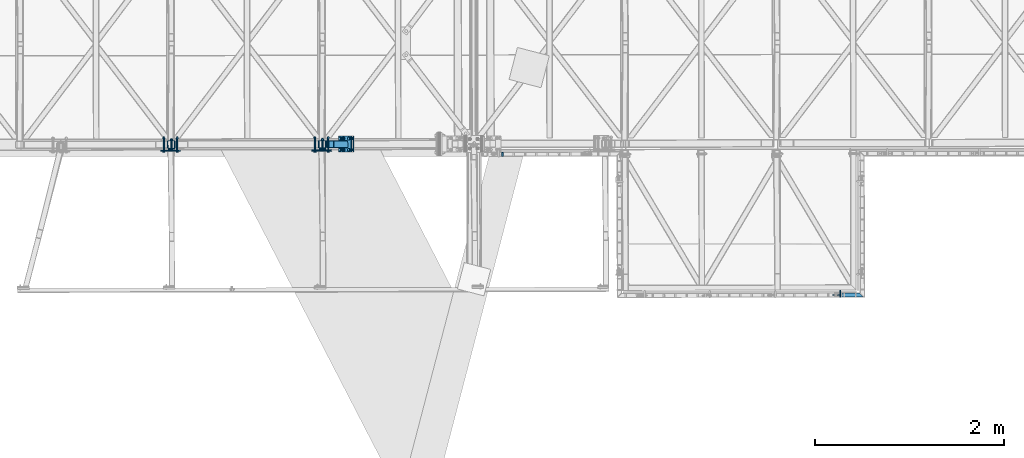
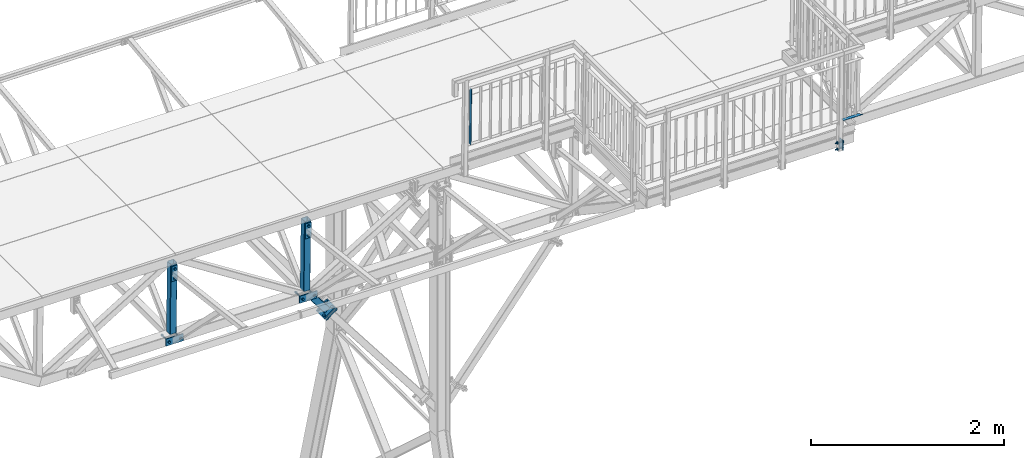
# One storey, part 101 of 169: 12 discrete accessories, 6 mechanical fasteners, 6 elements without a shape of their own.
"""IFC2X3 building model written with IfcOpenShell, lengths in millimetres."""

from ifc_helpers import new_model, si_unit, frame, frame_2d, origin_with_axes, origin_2d_with_axis, place, context, subcontext, project, spatial, polyline, circle_curve, parameter, trimmed, segment, composite_curve, rectangle, hollow_rectangle, circle, outline, extrude, boolean, clip, halfspace, source, transform, mapped, material, type_object, element, aggregate, save


model = new_model("IFC2X3")

# Units and contexts
model_context = context("Model", 3, precision=1e-05, world=origin_with_axes())
body_context = subcontext(model_context, "Body", "Model", "MODEL_VIEW")
ifc_project = project(units=[si_unit("LENGTHUNIT", "METRE", prefix="MILLI"), si_unit("AREAUNIT", "SQUARE_METRE"), si_unit("VOLUMEUNIT", "CUBIC_METRE"), si_unit("MASSUNIT", "GRAM", prefix="KILO"), si_unit("TIMEUNIT", "SECOND"), si_unit("PLANEANGLEUNIT", "RADIAN"), si_unit("SOLIDANGLEUNIT", "STERADIAN"), si_unit("THERMODYNAMICTEMPERATUREUNIT", "DEGREE_CELSIUS"), si_unit("LUMINOUSINTENSITYUNIT", "LUMEN")], contexts=[model_context])

# Site, building, storey
site_placement = place(None, origin_with_axes())
site = spatial("IfcSite", under=ifc_project, at=site_placement, Name="Undefined", CompositionType="ELEMENT")
building_placement = place(site_placement, origin_with_axes())
building = spatial("IfcBuilding", under=site, at=building_placement, Name="Undefined", CompositionType="ELEMENT")
storey_placement = place(building_placement, origin_with_axes())
storey = spatial("IfcBuildingStorey", under=building, at=storey_placement, Name="Undefined", CompositionType="ELEMENT", Elevation=0.0)

# Assembly, discrete accessories
assembly_1_placement = place(storey_placement, origin_with_axes())
assembly_1 = element("IfcElementAssembly", 1, at=assembly_1_placement, inside=storey, Name="Steel Assembly", AssemblyPlace="NOTDEFINED", PredefinedType="RIGID_FRAME")
ifc_material_1 = material(Name="STEEL/S355")
discrete_accessory_type_1 = type_object("IfcDiscreteAccessoryType", Name="BLACHA")
discrete_accessory_1_placement = place(assembly_1_placement, frame((4613.88200219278, 46.6181910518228, 12895.5316098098), z_axis=(0.00186484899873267, -0.999998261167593, 4.28757666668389e-08), x_axis=(-0.999917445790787, -0.00186469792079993, 0.0127131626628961)))
discrete_accessory_1 = element("IfcDiscreteAccessory", 2, at=discrete_accessory_1_placement, type_object=discrete_accessory_type_1, material=ifc_material_1, Name="BLACHA", ObjectType="BL12*90", context=body_context, shape_type="SweptSolid", body=[
    extrude(outline(polyline([(209.999999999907, 45.0000000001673), (209.999999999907, -44.999999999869), (0.0, -45.0000000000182), (0.0, 45.0000000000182), (209.999999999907, 45.0000000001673)])), frame((-1.81898942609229e-12, -1.81898940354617e-12, -5.99999999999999), z_axis=(0.0, 0.0, 1.0), x_axis=(1.0, 0.0, 0.0)), (0.0, 0.0, 1.0), 12.0),
])
discrete_accessory_2_placement = place(assembly_1_placement, frame((4554.35581764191, 66.5072548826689, 13722.6914092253), z_axis=(0.00186484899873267, -0.999998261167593, 4.28757666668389e-08), x_axis=(-0.999917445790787, -0.00186469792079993, 0.0127131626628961)))
discrete_accessory_2 = element("IfcDiscreteAccessory", 3, at=discrete_accessory_2_placement, type_object=discrete_accessory_type_1, material=ifc_material_1, Name="BLACHA", ObjectType="BL12*190", context=body_context, shape_type="SweptSolid", body=[
    extrude(outline(polyline([(69.9999999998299, 95.0000000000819), (69.9999999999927, -94.99999999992), (8.18545231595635e-11, -95.0), (-8.18545231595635e-11, 95.0000000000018), (69.9999999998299, 95.0000000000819)])), frame((-1.81898942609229e-12, -1.81898940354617e-12, -5.99999999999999), z_axis=(0.0, 0.0, 1.0), x_axis=(1.0, 0.0, 0.0)), (0.0, 0.0, 1.0), 12.0),
])

# Assembly, discrete accessory
assembly_2_placement = place(storey_placement, origin_with_axes())
assembly_2 = element("IfcElementAssembly", 4, at=assembly_2_placement, inside=storey, Name="Steel Assembly", AssemblyPlace="NOTDEFINED", PredefinedType="RIGID_FRAME")
ifc_material_2 = material(Name="STEEL/S235")
discrete_accessory_3_placement = place(assembly_2_placement, frame((10010.4174673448, -1436.32062110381, 13827.0351990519), z_axis=(-0.999917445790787, -0.00186469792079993, 0.0127131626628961), x_axis=(0.00186484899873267, -0.999998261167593, 4.28757666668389e-08)))
discrete_accessory_3 = element("IfcDiscreteAccessory", 5, at=discrete_accessory_3_placement, type_object=discrete_accessory_type_1, material=ifc_material_2, Name="BLACHA", ObjectType="BL10*120", context=body_context, shape_type="SweptSolid", body=[
    extrude(outline(polyline([(75.0000002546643, -60.0000000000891), (-5.35749222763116e-11, -59.9999999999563), (5.3567816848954e-11, 59.9999999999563), (75.0000002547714, 59.9999999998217), (75.0000002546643, -60.0000000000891)])), frame((-1.81898926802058e-12, -1.18000176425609e-16, -5.00000000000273), z_axis=(0.0, 0.0, 1.0), x_axis=(1.0, 0.0, 0.0)), (0.0, 0.0, 1.0), 10.0),
])
aggregate(assembly_2, [discrete_accessory_3])

# Assembly, discrete accessories
assembly_3_placement = place(storey_placement, origin_with_axes())
assembly_3 = element("IfcElementAssembly", 6, at=assembly_3_placement, inside=storey, Name="Steel Assembly", AssemblyPlace="NOTDEFINED", PredefinedType="RIGID_FRAME")
discrete_accessory_4_placement = place(assembly_3_placement, frame((3012.49886982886, 43.6318485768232, 12915.8919302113), z_axis=(0.00186484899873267, -0.999998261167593, 4.28757666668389e-08), x_axis=(-0.999917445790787, -0.00186469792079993, 0.0127131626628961)))
discrete_accessory_4 = element("IfcDiscreteAccessory", 7, at=discrete_accessory_4_placement, type_object=discrete_accessory_type_1, material=ifc_material_1, Name="BLACHA", ObjectType="BL12*90", context=body_context, shape_type="SweptSolid", body=[
    extrude(outline(polyline([(209.999999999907, 45.0000000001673), (209.999999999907, -44.999999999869), (0.0, -45.0000000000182), (0.0, 45.0000000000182), (209.999999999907, 45.0000000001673)])), frame((-1.81898942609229e-12, -1.81898940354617e-12, -5.99999999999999), z_axis=(0.0, 0.0, 1.0), x_axis=(1.0, 0.0, 0.0)), (0.0, 0.0, 1.0), 12.0),
])
discrete_accessory_5_placement = place(assembly_3_placement, frame((2952.97268208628, 63.5209118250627, 13743.0517292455), z_axis=(0.00186484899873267, -0.999998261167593, 4.28757666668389e-08), x_axis=(-0.999917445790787, -0.00186469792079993, 0.0127131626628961)))
discrete_accessory_5 = element("IfcDiscreteAccessory", 8, at=discrete_accessory_5_placement, type_object=discrete_accessory_type_1, material=ifc_material_1, Name="BLACHA", ObjectType="BL12*190", context=body_context, shape_type="SweptSolid", body=[
    extrude(outline(polyline([(69.9999999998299, 95.0000000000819), (69.9999999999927, -94.99999999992), (8.18545231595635e-11, -95.0), (-8.18545231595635e-11, 95.0000000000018), (69.9999999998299, 95.0000000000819)])), frame((-1.81898942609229e-12, -1.81898940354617e-12, -5.99999999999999), z_axis=(0.0, 0.0, 1.0), x_axis=(1.0, 0.0, 0.0)), (0.0, 0.0, 1.0), 12.0),
])

# Assembly, discrete accessory
assembly_4_placement = place(storey_placement, origin_with_axes())
assembly_4 = element("IfcElementAssembly", 9, at=assembly_4_placement, inside=storey, Name="Steel Assembly", AssemblyPlace="NOTDEFINED", PredefinedType="RIGID_FRAME")
discrete_accessory_6_placement = place(assembly_4_placement, frame((4846.72529695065, 114.052583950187, 12641.7648411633), z_axis=(-0.0018648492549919, 0.999998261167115, -4.2996762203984e-08), x_axis=(-0.792353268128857, -0.00147761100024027, -0.610060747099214)))
discrete_accessory_6 = element("IfcDiscreteAccessory", 10, at=discrete_accessory_6_placement, type_object=discrete_accessory_type_1, material=ifc_material_1, Name="BLACHA", ObjectType="BL16*170", context=body_context, shape_type="SweptSolid", body=[
    extrude(rectangle(XDim=16.0, YDim=170.0, at=origin_2d_with_axis()), frame((169.999999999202, 0.0, -3.62691994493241e-12), z_axis=(-1.0, -3.46944695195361e-18, -1.38777878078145e-17), x_axis=(1.73472347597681e-18, -1.0, 0.0)), (0.0, 0.0, 1.0), 170.0),
])

# Assembly, discrete accessories
assembly_5_placement = place(storey_placement, origin_with_axes())
assembly_5 = element("IfcElementAssembly", 11, at=assembly_5_placement, inside=storey, Name="Steel Assembly", AssemblyPlace="NOTDEFINED", PredefinedType="RIGID_FRAME")
discrete_accessory_7_placement = place(assembly_5_placement, frame((4827.2033873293, 114.016178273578, 12667.1201900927), z_axis=(-0.0018648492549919, 0.999998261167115, -4.2996762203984e-08), x_axis=(-0.792353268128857, -0.00147761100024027, -0.610060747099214)))
discrete_accessory_7 = element("IfcDiscreteAccessory", 12, at=discrete_accessory_7_placement, type_object=discrete_accessory_type_1, material=ifc_material_1, Name="BLACHA", ObjectType="BL16*170", context=body_context, shape_type="SweptSolid", body=[
    extrude(rectangle(XDim=16.0, YDim=170.0, at=origin_2d_with_axis()), frame((169.999999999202, 0.0, -3.62691994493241e-12), z_axis=(-1.0, -3.46944695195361e-18, -1.38777878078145e-17), x_axis=(1.73472347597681e-18, -1.0, 0.0)), (0.0, 0.0, 1.0), 170.0),
])
discrete_accessory_type_2 = type_object("IfcDiscreteAccessoryType", Name="BEAM")
discrete_accessory_8_placement = place(assembly_5_placement, frame((4765.03886686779, 113.900251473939, 12608.5300120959), z_axis=(-0.792353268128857, -0.00147761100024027, -0.610060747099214), x_axis=(-0.610059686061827, -0.00113766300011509, 0.792354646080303)))
discrete_accessory_8 = element("IfcDiscreteAccessory", 13, at=discrete_accessory_8_placement, type_object=discrete_accessory_type_2, material=ifc_material_1, Name="BEAM", ObjectType="K80/4", context=body_context, shape_type="Clipping", body=[
    clip(clip(extrude(hollow_rectangle(XDim=80.0, YDim=80.0, WallThickness=4.0, InnerFilletRadius=4.0, OuterFilletRadius=8.0, at=origin_2d_with_axis()), frame((286.864422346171, 3.07283067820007e-17, -1.85083775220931e-12), z_axis=(-1.0, -3.46944695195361e-18, -1.38777878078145e-17), x_axis=(1.73472347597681e-18, -1.0, 0.0)), (0.0, 0.0, 1.0), 270.36), halfspace(frame((936.355553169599, -2.59478122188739e-06, 821.739897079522), z_axis=(-0.784534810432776, -4.30963629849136e-08, 0.620084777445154), x_axis=(1.73472347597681e-18, -1.0, 0.0)), True)), halfspace(frame((16.5000003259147, 3.71528585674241e-10, -1000.00000000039), z_axis=(1.0, 0.0, 0.0), x_axis=(1.73472347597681e-18, -1.0, 0.0)), True)),
])
discrete_accessory_9_placement = place(assembly_5_placement, frame((2907.3825920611, 110.43593935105, 12917.2266989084), z_axis=(-0.999917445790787, -0.00186469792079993, 0.0127131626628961), x_axis=(0.012713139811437, 2.3750999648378e-05, 0.999919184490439)))
discrete_accessory_9 = element("IfcDiscreteAccessory", 14, at=discrete_accessory_9_placement, type_object=discrete_accessory_type_2, material=ifc_material_1, Name="BEAM", ObjectType="K80/4", context=body_context, shape_type="Clipping", body=[
    clip(clip(extrude(hollow_rectangle(XDim=80.0, YDim=80.0, WallThickness=4.0, InnerFilletRadius=4.0, OuterFilletRadius=8.0, at=origin_2d_with_axis()), frame((940.000112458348, 4.54747487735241e-13, 0.0), z_axis=(-1.0, -3.46944695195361e-18, -1.38777878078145e-17), x_axis=(1.73472347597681e-18, -1.0, 0.0)), (0.0, 0.0, 1.0), 880.0), halfspace(frame((940.000112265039, -6.72889655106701e-09, 999.999999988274), z_axis=(-1.0, -3.46944695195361e-18, -1.38777878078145e-17), x_axis=(1.73472347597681e-18, -1.0, 0.0)), True)), halfspace(frame((60.0001122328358, 8.14088707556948e-09, 1000.00000001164), z_axis=(1.0, 0.0, 0.0), x_axis=(0.0, 1.0, 0.0)), True)),
])
discrete_accessory_10_placement = place(assembly_5_placement, frame((4508.76572448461, 113.422282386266, 12896.8663751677), z_axis=(-0.999917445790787, -0.00186469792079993, 0.0127131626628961), x_axis=(0.012713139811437, 2.3750999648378e-05, 0.999919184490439)))
discrete_accessory_10 = element("IfcDiscreteAccessory", 15, at=discrete_accessory_10_placement, type_object=discrete_accessory_type_2, material=ifc_material_1, Name="BEAM", ObjectType="K80/4", context=body_context, shape_type="Clipping", body=[
    clip(clip(extrude(hollow_rectangle(XDim=80.0, YDim=80.0, WallThickness=4.0, InnerFilletRadius=4.0, OuterFilletRadius=8.0, at=origin_2d_with_axis()), frame((940.000112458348, 4.54747487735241e-13, 0.0), z_axis=(-1.0, -3.46944695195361e-18, -1.38777878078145e-17), x_axis=(1.73472347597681e-18, -1.0, 0.0)), (0.0, 0.0, 1.0), 880.0), halfspace(frame((940.000112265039, -6.72889655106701e-09, 999.999999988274), z_axis=(-1.0, -3.46944695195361e-18, -1.38777878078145e-17), x_axis=(1.73472347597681e-18, -1.0, 0.0)), True)), halfspace(frame((60.0001122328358, 8.14088707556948e-09, 1000.00000001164), z_axis=(1.0, 0.0, 0.0), x_axis=(0.0, 1.0, 0.0)), True)),
])
aggregate(assembly_5, [discrete_accessory_7, discrete_accessory_8, discrete_accessory_9, discrete_accessory_10])

# Assembly, discrete accessories, mechanical fastener
assembly_6_placement = place(storey_placement, origin_with_axes())
assembly_6 = element("IfcElementAssembly", 16, at=assembly_6_placement, inside=storey, Name="Steel Assembly", AssemblyPlace="NOTDEFINED", PredefinedType="RIGID_FRAME")
discrete_accessory_type_3 = type_object("IfcDiscreteAccessoryType", Name="PORĘCZ")
discrete_accessory_11_placement = place(assembly_6_placement, frame((6433.60411025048, 7.01172343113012, 15032.5708721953), z_axis=(0.00186484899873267, -0.999998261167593, 4.28757666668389e-08), x_axis=(-0.012713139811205, -2.37511238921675e-05, -0.999919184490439)))
discrete_accessory_11 = element("IfcDiscreteAccessory", 17, at=discrete_accessory_11_placement, type_object=discrete_accessory_type_3, material=ifc_material_2, Name="PORĘCZ", ObjectType="BL40*3", context=body_context, shape_type="Clipping", body=[
    clip(clip(extrude(rectangle(XDim=3.0, YDim=40.0, at=origin_2d_with_axis()), frame((848.500000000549, 1.47191286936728e-15, -8.89750592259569e-16), z_axis=(-1.0, -3.46944695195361e-18, -1.38777878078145e-17), x_axis=(1.73472347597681e-18, -1.0, 0.0)), (0.0, 0.0, 1.0), 702.0), halfspace(frame((848.499999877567, 4.522007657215e-09, 1000.00000000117), z_axis=(-1.0, -3.46944695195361e-18, -1.38777878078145e-17), x_axis=(1.73472347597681e-18, -1.0, 0.0)), True)), halfspace(frame((146.499999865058, 4.97311702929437e-09, 1000.00000000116), z_axis=(1.0, 0.0, 0.0), x_axis=(0.0, 1.0, 0.0)), True)),
])
discrete_accessory_12_placement = place(assembly_6_placement, frame((10234.4336214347, -1485.90293739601, 14134.2132527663), z_axis=(-0.012713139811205, -2.37511238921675e-05, -0.999919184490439), x_axis=(-0.999917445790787, -0.00186469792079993, 0.0127131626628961)))
discrete_accessory_12 = element("IfcDiscreteAccessory", 18, at=discrete_accessory_12_placement, type_object=discrete_accessory_type_3, material=ifc_material_2, Name="PORĘCZ", ObjectType="BL40*3", context=body_context, shape_type="CSG", body=[
    boolean("DIFFERENCE", boolean("DIFFERENCE", boolean("DIFFERENCE", boolean("DIFFERENCE", extrude(outline(polyline([(220.000004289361, 20.0000000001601), (220.000004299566, -19.9999999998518), (-20.000001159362, -19.9999999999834), (19.9999987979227, 19.9999999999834), (220.000004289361, 20.0000000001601)])), frame((1.81898940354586e-12, -1.77635442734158e-15, -1.50000000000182), z_axis=(0.0, 0.0, 1.0), x_axis=(1.0, 0.0, 0.0)), (0.0, 0.0, 1.0), 3.0), extrude(rectangle(XDim=51.0, YDim=51.0, at=origin_2d_with_axis()), frame((249.999999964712, -1.18792922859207e-08, -139.999999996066), z_axis=(0.0, 0.0, 1.0), x_axis=(1.0, 0.0, 0.0)), (0.0, 0.0, 1.0), 280.0)), halfspace(frame((220.000002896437, 999.999999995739, 3.80168785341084e-10), z_axis=(-1.0, -3.46944695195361e-18, -1.38777878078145e-17), x_axis=(0.0, 0.0, 1.0)), True)), halfspace(frame((19.9999987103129, 20.0000000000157, 5.85641828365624e-08), z_axis=(0.707106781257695, -0.7071067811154, 8.78533101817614e-11), x_axis=(-2.54700353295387e-10, 0.0, -1.0)), True)), halfspace(frame((224.999999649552, 999.999999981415, 6.55563781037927e-09), z_axis=(-1.0, -3.46944695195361e-18, -1.38777878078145e-17), x_axis=(0.0, 0.0, 1.0)), True)),
])
ifc_material_3 = material(Name="Undefined")
discrete_accessory_type_4 = type_object("IfcDiscreteAccessoryType", Name="Bolt assembly")
shared_shape_1 = source(origin_with_axes(), body_context, "Body", "SweptSolid", [
    extrude(circle(Radius=9.0, at=origin_2d_with_axis()), frame((0.0, -4.90000000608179, 0.0), z_axis=(0.0, 1.0, 0.0), x_axis=(1.0, 0.0, 0.0)), (0.0, 0.0, 1.0), 10.0),
    extrude(circle(Radius=9.0, at=origin_2d_with_axis()), frame((0.0, 4.89999999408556, 0.0), z_axis=(0.0, 1.0, 0.0), x_axis=(1.0, 0.0, 0.0)), (0.0, 0.0, 1.0), 50.1),
    extrude(outline(polyline([(10.39230484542, 0.0), (5.19615242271, 9.00000000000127), (-5.19615242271, 9.00000000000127), (-10.39230484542, 0.0), (-5.19615242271, -9.00000000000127), (5.19615242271, -9.00000000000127), (10.39230484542, 0.0)])), frame((0.0, -15.5000000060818, 0.0), z_axis=(0.0, 1.0, 0.0), x_axis=(1.0, 0.0, 0.0)), (0.0, 0.0, 1.0), 7.5),
    extrude(circle(Radius=6.0, at=origin_2d_with_axis()), frame((0.0, -8.00000000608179, 0.0), z_axis=(0.0, 1.0, 0.0), x_axis=(1.0, 0.0, 0.0)), (0.0, 0.0, 1.0), 90.0),
    extrude(circle(Radius=18.5, at=origin_2d_with_axis()), frame((0.0, -8.00000000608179, 0.0), z_axis=(0.0, 1.0, 0.0), x_axis=(1.0, 0.0, 0.0)), (0.0, 0.0, 1.0), 3.0),
    extrude(circle(Radius=18.5, at=origin_2d_with_axis()), frame((0.0, 54.9999999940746, 0.0), z_axis=(0.0, 1.0, 0.0), x_axis=(1.0, 0.0, 0.0)), (0.0, 0.0, 1.0), 3.0),
    extrude(outline(polyline([(10.96965511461, 0.0), (5.484827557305, 9.50000000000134), (-5.484827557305, 9.50000000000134), (-10.96965511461, 0.0), (-5.484827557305, -9.50000000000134), (5.484827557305, -9.50000000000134), (10.96965511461, 0.0)])), frame((0.0, 57.9999999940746, 0.0), z_axis=(0.0, 1.0, 0.0), x_axis=(1.0, 0.0, 0.0)), (0.0, 0.0, 1.0), 10.0),
])
mechanical_fastener_1_placement = place(assembly_6_placement, frame((10010.5170663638, -1486.32052179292, 13827.5351607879), z_axis=(0.0127140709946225, -0.00047624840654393, 0.999919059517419), x_axis=(-0.00185849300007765, 0.999998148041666, 0.000499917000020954)))
mechanical_fastener_1 = element("IfcMechanicalFastener", 19, at=mechanical_fastener_1_placement, type_object=discrete_accessory_type_4, material=ifc_material_3, Name="Bolt assembly", NominalDiameter=12.0, NominalLength=90.0, context=body_context, shape_type="MappedRepresentation", body=[
    mapped(shared_shape_1, transform((-1.15463194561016e-14, 5.45696821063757e-11, -39.9999999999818))),
    mapped(shared_shape_1, transform((8.88178419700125e-15, -5.54791768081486e-11, 39.99999999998))),
])
aggregate(assembly_6, [discrete_accessory_11, discrete_accessory_12, mechanical_fastener_1])

# Mechanical fastener
shared_shape_2 = source(origin_with_axes(), body_context, "Body", "SweptSolid", [
    extrude(circle(Radius=9.5, at=origin_2d_with_axis()), frame((0.0, 4.39999998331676, 0.0), z_axis=(0.0, 1.0, 0.0), x_axis=(1.0, 0.0, 0.0)), (0.0, 0.0, 1.0), 120.1),
    extrude(outline(composite_curve([segment(polyline([(9.5, 10.0), (9.5, -10.0)]), True, "CONTINUOUS"), segment(trimmed(circle_curve(frame_2d((0.0, -10.0), x_axis=(1.0, 0.0)), 9.5), [parameter(0.0)], [parameter(3.14159265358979)], False, "PARAMETER"), True, "CONTINUOUS"), segment(polyline([(-9.5, -10.0), (-9.5, 10.0)]), True, "CONTINUOUS"), segment(trimmed(circle_curve(frame_2d((0.0, 10.0), x_axis=(-1.0, 0.0)), 9.5), [parameter(0.0)], [parameter(3.14159265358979)], False, "PARAMETER"), True, "DISCONTINUOUS")], self_intersect=False)), frame((0.0, -8.39999975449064, 0.0), z_axis=(0.0, 1.0, 0.0), x_axis=(1.0, 0.0, 0.0)), (0.0, 0.0, 1.0), 12.0),
    extrude(outline(polyline([(13.85640646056, 0.0), (6.92820323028, 12.0000000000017), (-6.92820323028, 12.0000000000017), (-13.85640646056, 0.0), (-6.92820323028, -12.0000000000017), (6.92820323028, -12.0000000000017), (13.85640646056, 0.0)])), frame((0.0, -21.4999999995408, 0.0), z_axis=(0.0, 1.0, 0.0), x_axis=(1.0, 0.0, 0.0)), (0.0, 0.0, 1.0), 10.0),
    extrude(circle(Radius=8.0, at=origin_2d_with_axis()), frame((0.0, -11.4999999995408, 0.0), z_axis=(0.0, 1.0, 0.0), x_axis=(1.0, 0.0, 0.0)), (0.0, 0.0, 1.0), 160.0),
    extrude(circle(Radius=15.0, at=origin_2d_with_axis()), frame((0.0, -11.4999999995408, 0.0), z_axis=(0.0, 1.0, 0.0), x_axis=(1.0, 0.0, 0.0)), (0.0, 0.0, 1.0), 3.0),
    extrude(circle(Radius=15.0, at=origin_2d_with_axis()), frame((0.0, 124.499999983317, 0.0), z_axis=(0.0, 1.0, 0.0), x_axis=(1.0, 0.0, 0.0)), (0.0, 0.0, 1.0), 3.0),
    extrude(outline(polyline([(13.85640646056, 0.0), (6.92820323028, 12.0000000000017), (-6.92820323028, 12.0000000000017), (-13.85640646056, 0.0), (-6.92820323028, -12.0000000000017), (6.92820323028, -12.0000000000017), (13.85640646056, 0.0)])), frame((0.0, 127.499999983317, 0.0), z_axis=(0.0, 1.0, 0.0), x_axis=(1.0, 0.0, 0.0)), (0.0, 0.0, 1.0), 13.0),
])
mechanical_fastener_2_placement = place(assembly_1_placement, frame((4438.89178705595, 48.7918645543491, 12897.7564130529), z_axis=(0.012713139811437, 2.3750999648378e-05, 0.999919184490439), x_axis=(0.9999174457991, 0.00186469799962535, -0.0127131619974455)))
mechanical_fastener_2 = element("IfcMechanicalFastener", 20, at=mechanical_fastener_2_placement, type_object=discrete_accessory_type_4, material=ifc_material_3, Name="Bolt assembly", NominalDiameter=16.0, NominalLength=160.0, context=body_context, shape_type="MappedRepresentation", body=[
    mapped(shared_shape_2, transform((0.0, 0.0, 0.0))),
    mapped(shared_shape_2, transform((139.999999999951, -4.15525391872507e-11, -3.09228198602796e-11))),
])

shared_shape_3 = source(origin_with_axes(), body_context, "Body", "SweptSolid", [
    extrude(circle(Radius=9.5, at=origin_2d_with_axis()), frame((0.0, 4.39999998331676, 0.0), z_axis=(0.0, 1.0, 0.0), x_axis=(1.0, 0.0, 0.0)), (0.0, 0.0, 1.0), 80.1),
    extrude(outline(composite_curve([segment(polyline([(9.5, 10.0), (9.5, -10.0)]), True, "CONTINUOUS"), segment(trimmed(circle_curve(frame_2d((0.0, -10.0), x_axis=(1.0, 0.0)), 9.5), [parameter(0.0)], [parameter(3.14159265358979)], False, "PARAMETER"), True, "CONTINUOUS"), segment(polyline([(-9.5, -10.0), (-9.5, 10.0)]), True, "CONTINUOUS"), segment(trimmed(circle_curve(frame_2d((0.0, 10.0), x_axis=(-1.0, 0.0)), 9.5), [parameter(0.0)], [parameter(3.14159265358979)], False, "PARAMETER"), True, "DISCONTINUOUS")], self_intersect=False)), frame((0.0, -8.39999975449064, 0.0), z_axis=(0.0, 1.0, 0.0), x_axis=(1.0, 0.0, 0.0)), (0.0, 0.0, 1.0), 12.0),
    extrude(outline(polyline([(13.85640646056, 0.0), (6.92820323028, 12.0000000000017), (-6.92820323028, 12.0000000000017), (-13.85640646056, 0.0), (-6.92820323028, -12.0000000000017), (6.92820323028, -12.0000000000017), (13.85640646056, 0.0)])), frame((0.0, -21.4999999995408, 0.0), z_axis=(0.0, 1.0, 0.0), x_axis=(1.0, 0.0, 0.0)), (0.0, 0.0, 1.0), 10.0),
    extrude(circle(Radius=8.0, at=origin_2d_with_axis()), frame((0.0, -11.4999999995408, 0.0), z_axis=(0.0, 1.0, 0.0), x_axis=(1.0, 0.0, 0.0)), (0.0, 0.0, 1.0), 120.0),
    extrude(circle(Radius=15.0, at=origin_2d_with_axis()), frame((0.0, -11.4999999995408, 0.0), z_axis=(0.0, 1.0, 0.0), x_axis=(1.0, 0.0, 0.0)), (0.0, 0.0, 1.0), 3.0),
    extrude(circle(Radius=15.0, at=origin_2d_with_axis()), frame((0.0, 84.4999999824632, 0.0), z_axis=(0.0, 1.0, 0.0), x_axis=(1.0, 0.0, 0.0)), (0.0, 0.0, 1.0), 3.0),
    extrude(outline(polyline([(13.85640646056, 0.0), (6.92820323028, 12.0000000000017), (-6.92820323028, 12.0000000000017), (-13.85640646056, 0.0), (-6.92820323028, -12.0000000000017), (6.92820323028, -12.0000000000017), (13.85640646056, 0.0)])), frame((0.0, 87.4999999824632, 0.0), z_axis=(0.0, 1.0, 0.0), x_axis=(1.0, 0.0, 0.0)), (0.0, 0.0, 1.0), 13.0),
])
mechanical_fastener_3_placement = place(assembly_1_placement, frame((4519.35404491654, 68.9419861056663, 13723.1363697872), z_axis=(0.012713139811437, 2.3750999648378e-05, 0.999919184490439), x_axis=(0.9999174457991, 0.00186469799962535, -0.0127131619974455)))
mechanical_fastener_3 = element("IfcMechanicalFastener", 21, at=mechanical_fastener_3_placement, type_object=discrete_accessory_type_4, material=ifc_material_3, Name="Bolt assembly", NominalDiameter=16.0, NominalLength=120.0, context=body_context, shape_type="MappedRepresentation", body=[
    mapped(shared_shape_3, transform((1.18234311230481e-11, 9.20081788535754e-11, -60.0000000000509))),
    mapped(shared_shape_3, transform((-1.2732925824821e-11, -9.20223897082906e-11, 60.0000000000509))),
])

aggregate(assembly_1, [mechanical_fastener_2, discrete_accessory_1, mechanical_fastener_3, discrete_accessory_2])

shared_shape_4 = source(origin_with_axes(), body_context, "Body", "SweptSolid", [
    extrude(circle(Radius=9.5, at=origin_2d_with_axis()), frame((0.0, 4.39999998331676, 0.0), z_axis=(0.0, 1.0, 0.0), x_axis=(1.0, 0.0, 0.0)), (0.0, 0.0, 1.0), 120.1),
    extrude(outline(composite_curve([segment(polyline([(9.5, 10.0), (9.5, -10.0)]), True, "CONTINUOUS"), segment(trimmed(circle_curve(frame_2d((0.0, -10.0), x_axis=(1.0, 0.0)), 9.5), [parameter(0.0)], [parameter(3.14159265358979)], False, "PARAMETER"), True, "CONTINUOUS"), segment(polyline([(-9.5, -10.0), (-9.5, 10.0)]), True, "CONTINUOUS"), segment(trimmed(circle_curve(frame_2d((0.0, 10.0), x_axis=(-1.0, 0.0)), 9.5), [parameter(0.0)], [parameter(3.14159265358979)], False, "PARAMETER"), True, "DISCONTINUOUS")], self_intersect=False)), frame((0.0, -8.39999975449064, 0.0), z_axis=(0.0, 1.0, 0.0), x_axis=(1.0, 0.0, 0.0)), (0.0, 0.0, 1.0), 12.0),
    extrude(outline(polyline([(13.85640646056, 0.0), (6.92820323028, 12.0000000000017), (-6.92820323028, 12.0000000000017), (-13.85640646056, 0.0), (-6.92820323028, -12.0000000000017), (6.92820323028, -12.0000000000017), (13.85640646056, 0.0)])), frame((0.0, -21.4999999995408, 0.0), z_axis=(0.0, 1.0, 0.0), x_axis=(1.0, 0.0, 0.0)), (0.0, 0.0, 1.0), 10.0),
    extrude(circle(Radius=8.0, at=origin_2d_with_axis()), frame((0.0, -11.4999999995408, 0.0), z_axis=(0.0, 1.0, 0.0), x_axis=(1.0, 0.0, 0.0)), (0.0, 0.0, 1.0), 160.0),
    extrude(circle(Radius=15.0, at=origin_2d_with_axis()), frame((0.0, -11.4999999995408, 0.0), z_axis=(0.0, 1.0, 0.0), x_axis=(1.0, 0.0, 0.0)), (0.0, 0.0, 1.0), 3.0),
    extrude(circle(Radius=15.0, at=origin_2d_with_axis()), frame((0.0, 124.499999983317, 0.0), z_axis=(0.0, 1.0, 0.0), x_axis=(1.0, 0.0, 0.0)), (0.0, 0.0, 1.0), 3.0),
    extrude(outline(polyline([(13.85640646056, 0.0), (6.92820323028, 12.0000000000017), (-6.92820323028, 12.0000000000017), (-13.85640646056, 0.0), (-6.92820323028, -12.0000000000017), (6.92820323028, -12.0000000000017), (13.85640646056, 0.0)])), frame((0.0, 127.499999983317, 0.0), z_axis=(0.0, 1.0, 0.0), x_axis=(1.0, 0.0, 0.0)), (0.0, 0.0, 1.0), 13.0),
])
mechanical_fastener_4_placement = place(assembly_3_placement, frame((2837.50865474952, 45.8055220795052, 12918.116738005), z_axis=(0.012713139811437, 2.3750999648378e-05, 0.999919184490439), x_axis=(0.9999174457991, 0.00186469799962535, -0.0127131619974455)))
mechanical_fastener_4 = element("IfcMechanicalFastener", 22, at=mechanical_fastener_4_placement, type_object=discrete_accessory_type_4, material=ifc_material_3, Name="Bolt assembly", NominalDiameter=16.0, NominalLength=160.0, context=body_context, shape_type="MappedRepresentation", body=[
    mapped(shared_shape_4, transform((0.0, 0.0, 0.0))),
    mapped(shared_shape_4, transform((139.999999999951, -4.15525391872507e-11, -3.09228198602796e-11))),
])

shared_shape_5 = source(origin_with_axes(), body_context, "Body", "SweptSolid", [
    extrude(circle(Radius=9.5, at=origin_2d_with_axis()), frame((0.0, 4.39999998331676, 0.0), z_axis=(0.0, 1.0, 0.0), x_axis=(1.0, 0.0, 0.0)), (0.0, 0.0, 1.0), 80.1),
    extrude(outline(composite_curve([segment(polyline([(9.5, 10.0), (9.5, -10.0)]), True, "CONTINUOUS"), segment(trimmed(circle_curve(frame_2d((0.0, -10.0), x_axis=(1.0, 0.0)), 9.5), [parameter(0.0)], [parameter(3.14159265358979)], False, "PARAMETER"), True, "CONTINUOUS"), segment(polyline([(-9.5, -10.0), (-9.5, 10.0)]), True, "CONTINUOUS"), segment(trimmed(circle_curve(frame_2d((0.0, 10.0), x_axis=(-1.0, 0.0)), 9.5), [parameter(0.0)], [parameter(3.14159265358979)], False, "PARAMETER"), True, "DISCONTINUOUS")], self_intersect=False)), frame((0.0, -8.39999975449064, 0.0), z_axis=(0.0, 1.0, 0.0), x_axis=(1.0, 0.0, 0.0)), (0.0, 0.0, 1.0), 12.0),
    extrude(outline(polyline([(13.85640646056, 0.0), (6.92820323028, 12.0000000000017), (-6.92820323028, 12.0000000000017), (-13.85640646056, 0.0), (-6.92820323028, -12.0000000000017), (6.92820323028, -12.0000000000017), (13.85640646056, 0.0)])), frame((0.0, -21.4999999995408, 0.0), z_axis=(0.0, 1.0, 0.0), x_axis=(1.0, 0.0, 0.0)), (0.0, 0.0, 1.0), 10.0),
    extrude(circle(Radius=8.0, at=origin_2d_with_axis()), frame((0.0, -11.4999999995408, 0.0), z_axis=(0.0, 1.0, 0.0), x_axis=(1.0, 0.0, 0.0)), (0.0, 0.0, 1.0), 120.0),
    extrude(circle(Radius=15.0, at=origin_2d_with_axis()), frame((0.0, -11.4999999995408, 0.0), z_axis=(0.0, 1.0, 0.0), x_axis=(1.0, 0.0, 0.0)), (0.0, 0.0, 1.0), 3.0),
    extrude(circle(Radius=15.0, at=origin_2d_with_axis()), frame((0.0, 84.4999999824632, 0.0), z_axis=(0.0, 1.0, 0.0), x_axis=(1.0, 0.0, 0.0)), (0.0, 0.0, 1.0), 3.0),
    extrude(outline(polyline([(13.85640646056, 0.0), (6.92820323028, 12.0000000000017), (-6.92820323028, 12.0000000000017), (-13.85640646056, 0.0), (-6.92820323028, -12.0000000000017), (6.92820323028, -12.0000000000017), (13.85640646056, 0.0)])), frame((0.0, 87.4999999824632, 0.0), z_axis=(0.0, 1.0, 0.0), x_axis=(1.0, 0.0, 0.0)), (0.0, 0.0, 1.0), 13.0),
])
mechanical_fastener_5_placement = place(assembly_3_placement, frame((2917.97090940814, 65.9556430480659, 13743.4966935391), z_axis=(0.012713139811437, 2.3750999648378e-05, 0.999919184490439), x_axis=(0.9999174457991, 0.00186469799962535, -0.0127131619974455)))
mechanical_fastener_5 = element("IfcMechanicalFastener", 23, at=mechanical_fastener_5_placement, type_object=discrete_accessory_type_4, material=ifc_material_3, Name="Bolt assembly", NominalDiameter=16.0, NominalLength=120.0, context=body_context, shape_type="MappedRepresentation", body=[
    mapped(shared_shape_5, transform((1.18234311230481e-11, 9.20081788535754e-11, -60.0000000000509))),
    mapped(shared_shape_5, transform((-1.2732925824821e-11, -9.20223897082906e-11, 60.0000000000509))),
])

aggregate(assembly_3, [mechanical_fastener_4, discrete_accessory_4, mechanical_fastener_5, discrete_accessory_5])

shared_shape_6 = source(origin_with_axes(), body_context, "Body", "SweptSolid", [
    extrude(circle(Radius=9.5, at=origin_2d_with_axis()), frame((0.0, -23.9000000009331, 0.0), z_axis=(0.0, 1.0, 0.0), x_axis=(1.0, 0.0, 0.0)), (0.0, 0.0, 1.0), 16.0),
    extrude(circle(Radius=9.5, at=origin_2d_with_axis()), frame((0.0, 7.89999997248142, 0.0), z_axis=(0.0, 1.0, 0.0), x_axis=(1.0, 0.0, 0.0)), (0.0, 0.0, 1.0), 16.1),
    extrude(circle(Radius=9.5, at=origin_2d_with_axis()), frame((0.0, 1.99999997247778, 0.0), z_axis=(0.0, 1.0, 0.0), x_axis=(1.0, 0.0, 0.0)), (0.0, 0.0, 1.0), 5.0),
    extrude(circle(Radius=9.5, at=origin_2d_with_axis()), frame((0.0, -3.00000607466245, 0.0), z_axis=(0.0, 1.0, 0.0), x_axis=(1.0, 0.0, 0.0)), (0.0, 0.0, 1.0), 5.0),
    extrude(circle(Radius=9.5, at=origin_2d_with_axis()), frame((0.0, -8.00000000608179, 0.0), z_axis=(0.0, 1.0, 0.0), x_axis=(1.0, 0.0, 0.0)), (0.0, 0.0, 1.0), 5.0),
    extrude(outline(polyline([(15.58845726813, 0.0), (7.794228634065, 13.5000000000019), (-7.794228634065, 13.5000000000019), (-15.58845726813, 0.0), (-7.794228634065, -13.5000000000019), (7.794228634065, -13.5000000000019), (15.58845726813, 0.0)])), frame((0.0, -38.0000000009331, 0.0), z_axis=(0.0, 1.0, 0.0), x_axis=(1.0, 0.0, 0.0)), (0.0, 0.0, 1.0), 10.0),
    extrude(circle(Radius=8.0, at=origin_2d_with_axis()), frame((0.0, -28.0000000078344, 0.0), z_axis=(0.0, 1.0, 0.0), x_axis=(1.0, 0.0, 0.0)), (0.0, 0.0, 1.0), 75.0),
    extrude(circle(Radius=15.0, at=origin_2d_with_axis()), frame((0.0, -28.0000000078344, 0.0), z_axis=(0.0, 1.0, 0.0), x_axis=(1.0, 0.0, 0.0)), (0.0, 0.0, 1.0), 4.0),
    extrude(circle(Radius=15.0, at=origin_2d_with_axis()), frame((0.0, 24.0000000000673, 0.0), z_axis=(0.0, 1.0, 0.0), x_axis=(1.0, 0.0, 0.0)), (0.0, 0.0, 1.0), 4.0),
    extrude(outline(polyline([(15.58845726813, 0.0), (7.794228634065, 13.5000000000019), (-7.794228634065, 13.5000000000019), (-15.58845726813, 0.0), (-7.794228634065, -13.5000000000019), (7.794228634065, -13.5000000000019), (15.58845726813, 0.0)])), frame((0.0, 27.9999999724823, 0.0), z_axis=(0.0, 1.0, 0.0), x_axis=(1.0, 0.0, 0.0)), (0.0, 0.0, 1.0), 13.0),
])
mechanical_fastener_6_placement = place(assembly_4_placement, frame((4737.92018345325, 113.849679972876, 12578.1849221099), z_axis=(-0.0018648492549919, 0.999998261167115, -4.2996762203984e-08), x_axis=(0.792353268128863, 0.00147761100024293, 0.610060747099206)))
mechanical_fastener_6 = element("IfcMechanicalFastener", 24, at=mechanical_fastener_6_placement, type_object=discrete_accessory_type_4, material=ifc_material_3, Name="Bolt assembly", NominalDiameter=16.0, NominalLength=75.0, context=body_context, shape_type="MappedRepresentation", body=[
    mapped(shared_shape_6, transform((-20.0000000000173, 3.45607986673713e-11, -60.0000000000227))),
    mapped(shared_shape_6, transform((-19.9999999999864, -5.45696821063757e-12, 59.9999999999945))),
    mapped(shared_shape_6, transform((99.9999999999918, -5.82076609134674e-11, -59.9999999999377))),
    mapped(shared_shape_6, transform((100.000000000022, -9.64064383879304e-11, 60.00000000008))),
])

aggregate(assembly_4, [mechanical_fastener_6, discrete_accessory_6])

save(model, "model.ifc")
